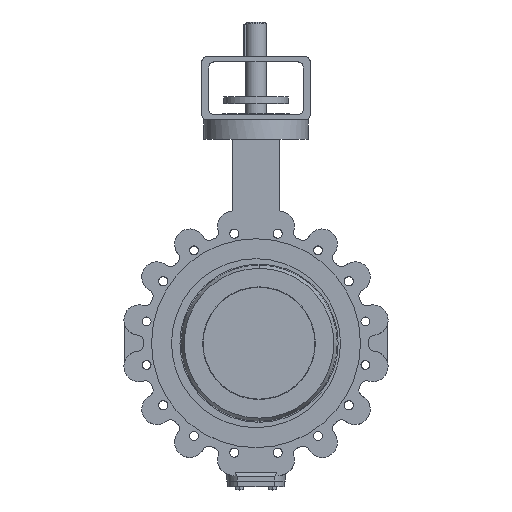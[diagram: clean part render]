
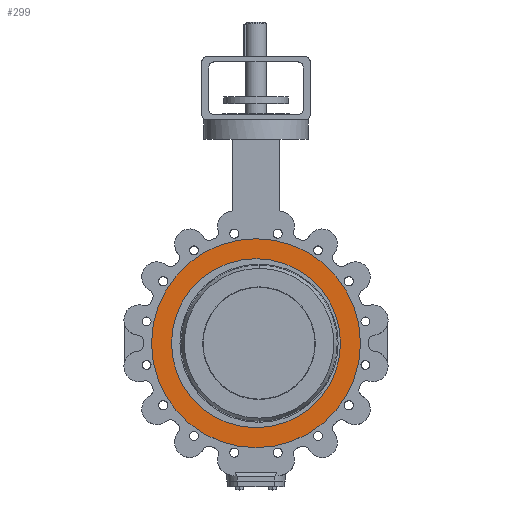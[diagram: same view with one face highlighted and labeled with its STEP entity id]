
A CAD part, top view. The second image highlights one B-rep face of the part: STEP entity #299.
In plain terms, the highlighted planar face has unit normal (0, 0, 1).
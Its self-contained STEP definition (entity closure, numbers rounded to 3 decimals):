
#299 = ADVANCED_FACE( '', ( #882, #883 ), #884, .T. );
#882 = FACE_BOUND( '', #1568, .T. );
#883 = FACE_OUTER_BOUND( '', #1569, .T. );
#884 = PLANE( '', #1570 );
#1568 = EDGE_LOOP( '', ( #3628, #3629, #3630 ) );
#1569 = EDGE_LOOP( '', ( #3631, #3632 ) );
#1570 = AXIS2_PLACEMENT_3D( '', #3633, #3634, #3635 );
#3628 = ORIENTED_EDGE( '', *, *, #4434, .F. );
#3629 = ORIENTED_EDGE( '', *, *, #4433, .F. );
#3630 = ORIENTED_EDGE( '', *, *, #5082, .F. );
#3631 = ORIENTED_EDGE( '', *, *, #4456, .T. );
#3632 = ORIENTED_EDGE( '', *, *, #5080, .T. );
#3633 = CARTESIAN_POINT( '', ( 0., 218., 70. ) );
#3634 = DIRECTION( '', ( 0., 0., 1. ) );
#3635 = DIRECTION( '', ( 0., 1., 0. ) );
#4433 = EDGE_CURVE( '', #5328, #5331, #5332, .T. );
#4434 = EDGE_CURVE( '', #5331, #5333, #5334, .T. );
#4456 = EDGE_CURVE( '', #5371, #5375, #5377, .T. );
#5080 = EDGE_CURVE( '', #5375, #5371, #6424, .T. );
#5082 = EDGE_CURVE( '', #5333, #5328, #6426, .T. );
#5328 = VERTEX_POINT( '', #6774 );
#5331 = VERTEX_POINT( '', #6778 );
#5332 = CIRCLE( '', #6779, 195. );
#5333 = VERTEX_POINT( '', #6780 );
#5334 = CIRCLE( '', #6781, 195. );
#5371 = VERTEX_POINT( '', #6827 );
#5375 = VERTEX_POINT( '', #6832 );
#5377 = CIRCLE( '', #6835, 241. );
#6424 = CIRCLE( '', #9009, 241. );
#6426 = CIRCLE( '', #9011, 195. );
#6774 = CARTESIAN_POINT( '', ( 195., 0., 70. ) );
#6778 = CARTESIAN_POINT( '', ( 0., 195., 70. ) );
#6779 = AXIS2_PLACEMENT_3D( '', #9507, #9508, #9509 );
#6780 = CARTESIAN_POINT( '', ( -195., 0., 70. ) );
#6781 = AXIS2_PLACEMENT_3D( '', #9510, #9511, #9512 );
#6827 = CARTESIAN_POINT( '', ( 0., 241., 70. ) );
#6832 = CARTESIAN_POINT( '', ( 0., -241., 70. ) );
#6835 = AXIS2_PLACEMENT_3D( '', #9554, #9555, #9556 );
#9009 = AXIS2_PLACEMENT_3D( '', #10752, #10753, #10754 );
#9011 = AXIS2_PLACEMENT_3D( '', #10758, #10759, #10760 );
#9507 = CARTESIAN_POINT( '', ( 0., 0., 70. ) );
#9508 = DIRECTION( '', ( 0., 0., 1. ) );
#9509 = DIRECTION( '', ( 0., 1., 0. ) );
#9510 = CARTESIAN_POINT( '', ( 0., 0., 70. ) );
#9511 = DIRECTION( '', ( 0., 0., 1. ) );
#9512 = DIRECTION( '', ( 0., 1., 0. ) );
#9554 = CARTESIAN_POINT( '', ( 0., 0., 70. ) );
#9555 = DIRECTION( '', ( 0., 0., 1. ) );
#9556 = DIRECTION( '', ( 0., 1., 0. ) );
#10752 = CARTESIAN_POINT( '', ( 0., 0., 70. ) );
#10753 = DIRECTION( '', ( 0., 0., 1. ) );
#10754 = DIRECTION( '', ( 0., 1., 0. ) );
#10758 = CARTESIAN_POINT( '', ( 0., 0., 70. ) );
#10759 = DIRECTION( '', ( 0., 0., 1. ) );
#10760 = DIRECTION( '', ( 0., 1., 0. ) );
